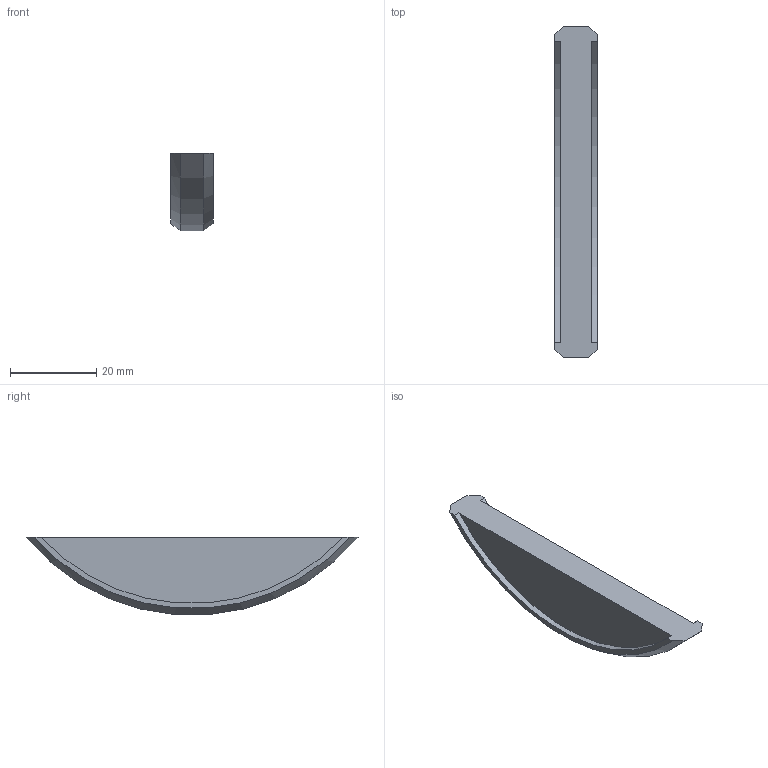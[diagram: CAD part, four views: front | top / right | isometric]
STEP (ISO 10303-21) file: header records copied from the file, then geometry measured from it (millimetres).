
FILE_DESCRIPTION(/* description */ (''),/* implementation_level */ '2;1');
FILE_NAME(/* name */ 'C:\Users\matthiask.LAMELLONET\Desktop\Öfftentliche Daten\CAD-Profilnut P-18\P-18_Divario_Nut.stp',/* time_stamp */ '2022-07-04T09:56:34+02:00',/* author */ ('matthiask'),/* organization */ (''),/* preprocessor_version */ 'ST-DEVELOPER v18',/* originating_system */ 'Autodesk Inventor 2020',/* authorisation */ '');
FILE_SCHEMA (('AUTOMOTIVE_DESIGN { 1 0 10303 214 3 1 1 }'));
Length unit declared in the file: millimetre
Products named in the file (1): P-14 Profilnut ohne Zugangsbohrung
Bounding box: 9.8 x 76.84 x 17.84 mm (x, y, z)
Volume: 7065.8 mm3; surface area: 3358.9 mm2
Topology: 1 solids, 1 shells, 10 faces, 24 edges, 16 vertices
Faces by surface type: plane 5, cylinder 3, cone 2
Entity records: 333 total; most frequent: CARTESIAN_POINT 59, DIRECTION 50, ORIENTED_EDGE 48, EDGE_CURVE 24, AXIS2_PLACEMENT_3D 19, VERTEX_POINT 16, LINE 12, VECTOR 12
